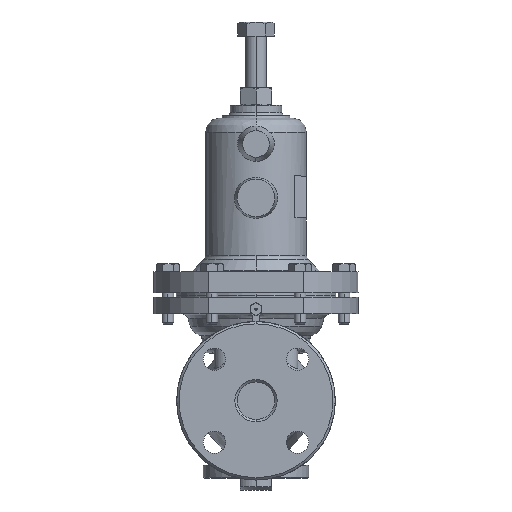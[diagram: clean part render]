
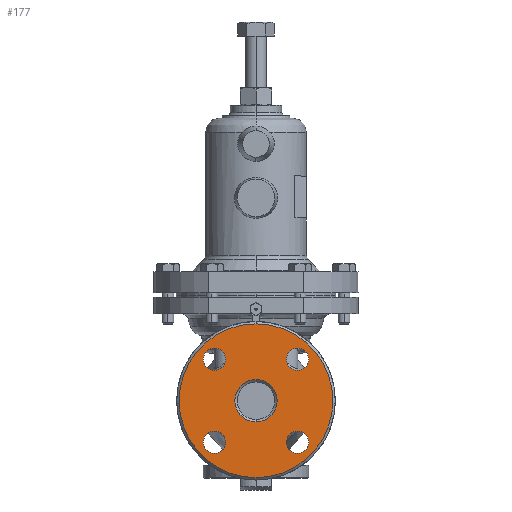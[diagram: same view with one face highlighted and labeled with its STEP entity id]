
A CAD part, left-side view. The second image highlights one B-rep face of the part: STEP entity #177.
In plain terms, the highlighted planar face has unit normal (-1, 0, 0).
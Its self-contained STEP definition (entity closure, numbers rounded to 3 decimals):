
#177=ADVANCED_FACE('',(#913,#914,#915,#916,#917,#918),#912,.F.);
#912=PLANE('',#5727);
#913=FACE_OUTER_BOUND('',#5728,.T.);
#914=FACE_BOUND('',#5729,.T.);
#915=FACE_BOUND('',#5730,.T.);
#916=FACE_BOUND('',#5731,.T.);
#917=FACE_BOUND('',#5732,.T.);
#918=FACE_BOUND('',#5733,.T.);
#5724=CARTESIAN_POINT('',(-97.5,-123.449,75.5));
#5725=DIRECTION('',(1.,0.,0.));
#5726=DIRECTION('',(0.,0.,-1.));
#5727=AXIS2_PLACEMENT_3D('',#5724,#5725,#5726);
#5728=EDGE_LOOP('',(#10962,#10963));
#5729=EDGE_LOOP('',(#10964,#10965));
#5730=EDGE_LOOP('',(#10966,#10967));
#5731=EDGE_LOOP('',(#10968,#10969));
#5732=EDGE_LOOP('',(#10970,#10971));
#5733=EDGE_LOOP('',(#10972,#10973));
#10962=ORIENTED_EDGE('',*,*,#13368,.T.);
#10963=ORIENTED_EDGE('',*,*,#13369,.T.);
#10964=ORIENTED_EDGE('',*,*,#13370,.F.);
#10965=ORIENTED_EDGE('',*,*,#13371,.F.);
#10966=ORIENTED_EDGE('',*,*,#13372,.F.);
#10967=ORIENTED_EDGE('',*,*,#13373,.F.);
#10968=ORIENTED_EDGE('',*,*,#13374,.F.);
#10969=ORIENTED_EDGE('',*,*,#13375,.F.);
#10970=ORIENTED_EDGE('',*,*,#13376,.F.);
#10971=ORIENTED_EDGE('',*,*,#13377,.F.);
#10972=ORIENTED_EDGE('',*,*,#13378,.F.);
#10973=ORIENTED_EDGE('',*,*,#13379,.F.);
#13368=EDGE_CURVE('',#15400,#15401,#15402,.T.);
#13369=EDGE_CURVE('',#15401,#15400,#15408,.T.);
#13370=EDGE_CURVE('',#15414,#15415,#15416,.T.);
#13371=EDGE_CURVE('',#15415,#15414,#15422,.T.);
#13372=EDGE_CURVE('',#15428,#15429,#15430,.T.);
#13373=EDGE_CURVE('',#15429,#15428,#15436,.T.);
#13374=EDGE_CURVE('',#15442,#15443,#15444,.T.);
#13375=EDGE_CURVE('',#15443,#15442,#15450,.T.);
#13376=EDGE_CURVE('',#15456,#15457,#15458,.T.);
#13377=EDGE_CURVE('',#15457,#15456,#15464,.T.);
#13378=EDGE_CURVE('',#15470,#15471,#15472,.T.);
#13379=EDGE_CURVE('',#15471,#15470,#15478,.T.);
#15400=VERTEX_POINT('',#23527);
#15401=VERTEX_POINT('',#23528);
#15402=CIRCLE('',#23532,65.5);
#15408=CIRCLE('',#23536,65.5);
#15414=VERTEX_POINT('',#23537);
#15415=VERTEX_POINT('',#23538);
#15416=CIRCLE('',#23542,9.5);
#15422=CIRCLE('',#23546,9.5);
#15428=VERTEX_POINT('',#23547);
#15429=VERTEX_POINT('',#23548);
#15430=CIRCLE('',#23552,9.5);
#15436=CIRCLE('',#23556,9.5);
#15442=VERTEX_POINT('',#23557);
#15443=VERTEX_POINT('',#23558);
#15444=CIRCLE('',#23562,9.5);
#15450=CIRCLE('',#23566,9.5);
#15456=VERTEX_POINT('',#23567);
#15457=VERTEX_POINT('',#23568);
#15458=CIRCLE('',#23572,18.);
#15464=CIRCLE('',#23576,18.);
#15470=VERTEX_POINT('',#23577);
#15471=VERTEX_POINT('',#23578);
#15472=CIRCLE('',#23582,9.5);
#15478=CIRCLE('',#23586,9.5);
#23527=CARTESIAN_POINT('',(-97.5,0.,65.5));
#23528=CARTESIAN_POINT('',(-97.5,0.,-65.5));
#23529=CARTESIAN_POINT('',(-97.5,0.,0.));
#23530=DIRECTION('',(-1.,0.,0.));
#23531=DIRECTION('',(0.,0.,1.));
#23532=AXIS2_PLACEMENT_3D('',#23529,#23530,#23531);
#23533=CARTESIAN_POINT('',(-97.5,0.,0.));
#23534=DIRECTION('',(-1.,0.,0.));
#23535=DIRECTION('',(0.,0.,1.));
#23536=AXIS2_PLACEMENT_3D('',#23533,#23534,#23535);
#23537=CARTESIAN_POINT('',(-97.5,35.355,-25.855));
#23538=CARTESIAN_POINT('',(-97.5,35.355,-44.855));
#23539=CARTESIAN_POINT('',(-97.5,35.355,-35.355));
#23540=DIRECTION('',(-1.,0.,0.));
#23541=DIRECTION('',(0.,0.,-1.));
#23542=AXIS2_PLACEMENT_3D('',#23539,#23540,#23541);
#23543=CARTESIAN_POINT('',(-97.5,35.355,-35.355));
#23544=DIRECTION('',(-1.,0.,0.));
#23545=DIRECTION('',(0.,0.,-1.));
#23546=AXIS2_PLACEMENT_3D('',#23543,#23544,#23545);
#23547=CARTESIAN_POINT('',(-97.5,-35.355,-25.855));
#23548=CARTESIAN_POINT('',(-97.5,-35.355,-44.855));
#23549=CARTESIAN_POINT('',(-97.5,-35.355,-35.355));
#23550=DIRECTION('',(-1.,0.,0.));
#23551=DIRECTION('',(0.,0.,-1.));
#23552=AXIS2_PLACEMENT_3D('',#23549,#23550,#23551);
#23553=CARTESIAN_POINT('',(-97.5,-35.355,-35.355));
#23554=DIRECTION('',(-1.,0.,0.));
#23555=DIRECTION('',(0.,0.,-1.));
#23556=AXIS2_PLACEMENT_3D('',#23553,#23554,#23555);
#23557=CARTESIAN_POINT('',(-97.5,-35.355,44.855));
#23558=CARTESIAN_POINT('',(-97.5,-35.355,25.855));
#23559=CARTESIAN_POINT('',(-97.5,-35.355,35.355));
#23560=DIRECTION('',(-1.,0.,0.));
#23561=DIRECTION('',(0.,0.,-1.));
#23562=AXIS2_PLACEMENT_3D('',#23559,#23560,#23561);
#23563=CARTESIAN_POINT('',(-97.5,-35.355,35.355));
#23564=DIRECTION('',(-1.,0.,0.));
#23565=DIRECTION('',(0.,0.,-1.));
#23566=AXIS2_PLACEMENT_3D('',#23563,#23564,#23565);
#23567=CARTESIAN_POINT('',(-97.5,0.,-18.));
#23568=CARTESIAN_POINT('',(-97.5,0.,18.));
#23569=CARTESIAN_POINT('',(-97.5,0.,0.));
#23570=DIRECTION('',(-1.,0.,0.));
#23571=DIRECTION('',(0.,0.,1.));
#23572=AXIS2_PLACEMENT_3D('',#23569,#23570,#23571);
#23573=CARTESIAN_POINT('',(-97.5,0.,0.));
#23574=DIRECTION('',(-1.,0.,0.));
#23575=DIRECTION('',(0.,0.,1.));
#23576=AXIS2_PLACEMENT_3D('',#23573,#23574,#23575);
#23577=CARTESIAN_POINT('',(-97.5,35.355,44.855));
#23578=CARTESIAN_POINT('',(-97.5,35.355,25.855));
#23579=CARTESIAN_POINT('',(-97.5,35.355,35.355));
#23580=DIRECTION('',(-1.,0.,0.));
#23581=DIRECTION('',(0.,0.,-1.));
#23582=AXIS2_PLACEMENT_3D('',#23579,#23580,#23581);
#23583=CARTESIAN_POINT('',(-97.5,35.355,35.355));
#23584=DIRECTION('',(-1.,0.,0.));
#23585=DIRECTION('',(0.,0.,-1.));
#23586=AXIS2_PLACEMENT_3D('',#23583,#23584,#23585);
